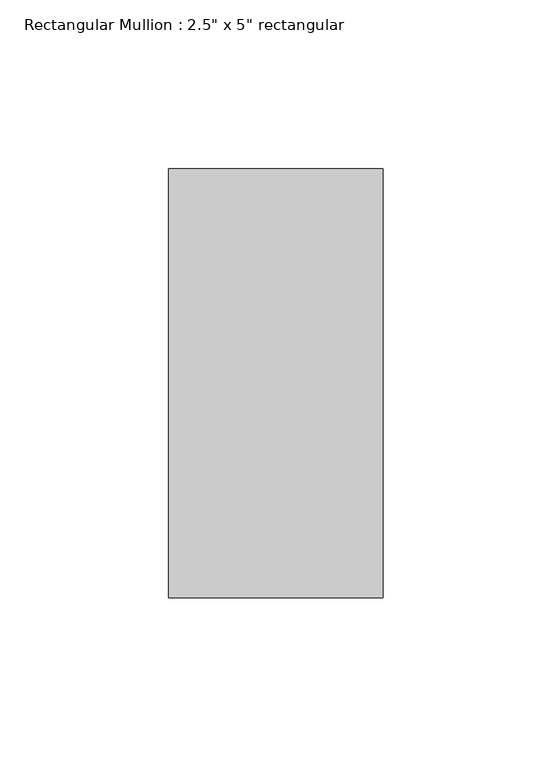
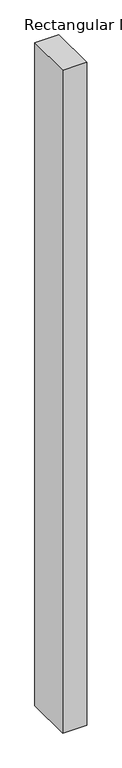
"""IFC4 building model written with IfcOpenShell, lengths in millimetres: member geometry."""

from ifc_helpers import new_model, si_unit, frame, origin, place, context, project, spatial, polyline, outline, extrude, source, transform, mapped, element, save


def member_bdc0ab2a(model_context):
    return source(origin(), model_context, "Body", "SweptSolid", [
        extrude(outline(polyline([(0.0, 63.5), (0.0, -63.5), (-63.5, -63.5), (-63.5, 63.5), (0.0, 63.5)])), frame((0.0, 0.0, -1854.2), z_axis=(0.0, 0.0, 1.0), x_axis=(1.0, 0.0, 0.0)), (0.0, 0.0, 1.0), 1854.2),
    ])


if __name__ == "__main__":
    model = new_model("IFC4")
    model_context = context("Model", 3, world=origin())
    ifc_project = project(units=[si_unit("LENGTHUNIT", "METRE", prefix="MILLI")], contexts=[model_context])
    site = spatial("IfcSite", under=ifc_project)
    building = spatial("IfcBuilding", under=site)
    placement = place(None, origin())
    member_shape = member_bdc0ab2a(model_context)
    element("IfcMember", 1, ObjectType="Rectangular Mullion : 2.5\" x 5\" rectangular", at=placement, inside=building, context=model_context, shape_type="MappedRepresentation", body=[
        mapped(member_shape, transform((0.0, 0.0, 0.0), x_axis=(1.0, 0.0, 0.0), y_axis=(0.0, 1.0, 0.0), z_axis=(0.0, 0.0, 1.0))),
    ])
    save(model, "model.ifc")
